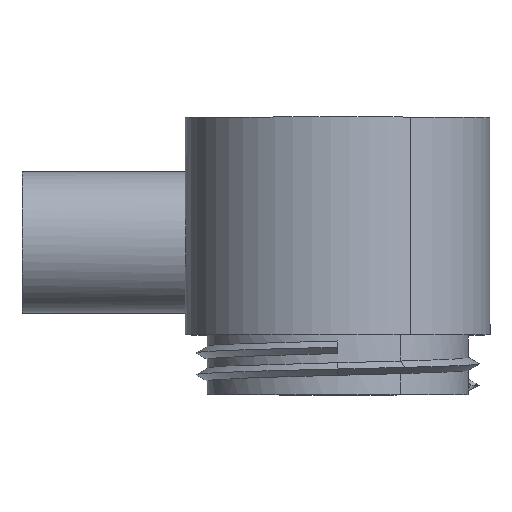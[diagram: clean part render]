
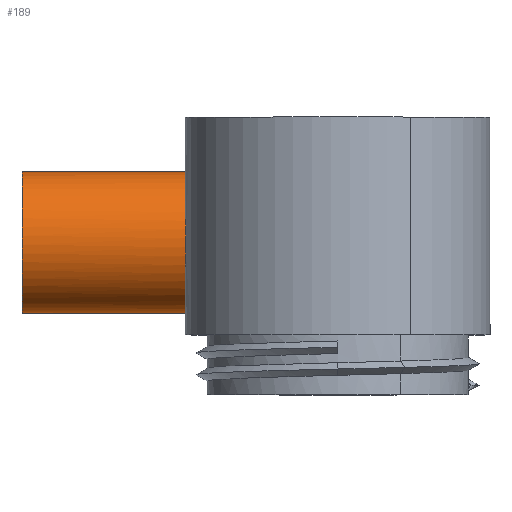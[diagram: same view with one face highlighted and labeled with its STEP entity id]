
A CAD part, top view. The second image highlights one B-rep face of the part: STEP entity #189.
In plain terms, the highlighted cylindrical face has radius 6.5 mm (diameter 13 mm), a partial arc.
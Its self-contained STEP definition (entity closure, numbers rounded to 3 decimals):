
#95=CYLINDRICAL_SURFACE('',#1176,6.5);
#121=FACE_OUTER_BOUND('',#287,.T.);
#189=ADVANCED_FACE('',(#121),#95,.T.);
#287=EDGE_LOOP('',(#370,#371,#372,#373));
#370=ORIENTED_EDGE('',*,*,#828,.T.);
#371=ORIENTED_EDGE('',*,*,#824,.T.);
#372=ORIENTED_EDGE('',*,*,#829,.T.);
#373=ORIENTED_EDGE('',*,*,#830,.F.);
#716=VERTEX_POINT('',#1304);
#717=VERTEX_POINT('',#1305);
#720=VERTEX_POINT('',#1379);
#721=VERTEX_POINT('',#1384);
#824=EDGE_CURVE('',#716,#717,#999,.T.);
#828=EDGE_CURVE('',#720,#716,#1003,.T.);
#829=EDGE_CURVE('',#717,#721,#1004,.T.);
#830=EDGE_CURVE('',#720,#721,#1005,.T.);
#999=B_SPLINE_CURVE_WITH_KNOTS('',3,(#1286,#1287,#1288,#1289,#1290,#1291,
#1292,#1293,#1294,#1295,#1296,#1297,#1298,#1299,#1300,#1301,#1302,#1303),
 .UNSPECIFIED.,.F.,.F.,(4,2,2,2,2,2,2,2,4),(0.,0.125,0.25,0.375,0.5,0.625,
0.75,0.875,1.),.UNSPECIFIED.);
#1003=B_SPLINE_CURVE_WITH_KNOTS('',3,(#1375,#1376,#1377,#1378),
 .UNSPECIFIED.,.F.,.F.,(4,4),(0.,1.),.UNSPECIFIED.);
#1004=B_SPLINE_CURVE_WITH_KNOTS('',3,(#1380,#1381,#1382,#1383),
 .UNSPECIFIED.,.F.,.F.,(4,4),(0.,1.),.UNSPECIFIED.);
#1005=B_SPLINE_CURVE_WITH_KNOTS('',3,(#1385,#1386,#1387,#1388,#1389,#1390,
#1391,#1392,#1393,#1394,#1395,#1396,#1397,#1398,#1399,#1400,#1401,#1402,
#1403,#1404,#1405,#1406,#1407,#1408,#1409,#1410,#1411,#1412),
 .UNSPECIFIED.,.F.,.F.,(4,2,2,2,2,2,2,2,2,2,2,2,2,4),(0.,0.063,0.125,0.188,
0.25,0.375,0.5,0.563,0.625,0.688,0.75,0.875,0.938,1.),.UNSPECIFIED.);
#1176=AXIS2_PLACEMENT_3D('',#1413,#1215,#1216);
#1215=DIRECTION('',(1.,0.,0.));
#1216=DIRECTION('',(0.,1.,0.));
#1286=CARTESIAN_POINT('',(-29.,20.5,-5.5));
#1287=CARTESIAN_POINT('',(-29.,20.5,-4.649));
#1288=CARTESIAN_POINT('',(-29.,20.331,-3.799));
#1289=CARTESIAN_POINT('',(-29.,19.68,-2.226));
#1290=CARTESIAN_POINT('',(-29.,19.198,-1.505));
#1291=CARTESIAN_POINT('',(-29.,17.995,-0.302));
#1292=CARTESIAN_POINT('',(-29.,17.274,0.18));
#1293=CARTESIAN_POINT('',(-29.,15.701,0.831));
#1294=CARTESIAN_POINT('',(-29.,14.851,1.));
#1295=CARTESIAN_POINT('',(-29.,13.149,1.));
#1296=CARTESIAN_POINT('',(-29.,12.299,0.831));
#1297=CARTESIAN_POINT('',(-29.,10.726,0.18));
#1298=CARTESIAN_POINT('',(-29.,10.005,-0.302));
#1299=CARTESIAN_POINT('',(-29.,8.802,-1.505));
#1300=CARTESIAN_POINT('',(-29.,8.32,-2.226));
#1301=CARTESIAN_POINT('',(-29.,7.669,-3.799));
#1302=CARTESIAN_POINT('',(-29.,7.5,-4.649));
#1303=CARTESIAN_POINT('',(-29.,7.5,-5.5));
#1304=CARTESIAN_POINT('',(-29.,20.5,-5.5));
#1305=CARTESIAN_POINT('',(-29.,7.5,-5.5));
#1375=CARTESIAN_POINT('',(-12.874,20.5,-5.5));
#1376=CARTESIAN_POINT('',(-18.25,20.5,-5.5));
#1377=CARTESIAN_POINT('',(-23.625,20.5,-5.5));
#1378=CARTESIAN_POINT('',(-29.,20.5,-5.5));
#1379=CARTESIAN_POINT('',(-12.874,20.5,-5.5));
#1380=CARTESIAN_POINT('',(-29.,7.5,-5.5));
#1381=CARTESIAN_POINT('',(-23.625,7.5,-5.5));
#1382=CARTESIAN_POINT('',(-18.25,7.5,-5.5));
#1383=CARTESIAN_POINT('',(-12.874,7.5,-5.5));
#1384=CARTESIAN_POINT('',(-12.874,7.5,-5.5));
#1385=CARTESIAN_POINT('',(-12.874,20.5,-5.5));
#1386=CARTESIAN_POINT('',(-13.047,20.5,-5.096));
#1387=CARTESIAN_POINT('',(-13.2,20.462,-4.685));
#1388=CARTESIAN_POINT('',(-13.463,20.305,-3.864));
#1389=CARTESIAN_POINT('',(-13.574,20.184,-3.453));
#1390=CARTESIAN_POINT('',(-13.75,19.864,-2.664));
#1391=CARTESIAN_POINT('',(-13.817,19.665,-2.284));
#1392=CARTESIAN_POINT('',(-13.917,19.192,-1.566));
#1393=CARTESIAN_POINT('',(-13.949,18.918,-1.229));
#1394=CARTESIAN_POINT('',(-14.01,18.009,-0.311));
#1395=CARTESIAN_POINT('',(-14.003,17.276,0.179));
#1396=CARTESIAN_POINT('',(-13.979,15.697,0.832));
#1397=CARTESIAN_POINT('',(-13.964,14.848,1.002));
#1398=CARTESIAN_POINT('',(-13.964,13.557,0.999));
#1399=CARTESIAN_POINT('',(-13.968,13.125,0.955));
#1400=CARTESIAN_POINT('',(-13.978,12.285,0.784));
#1401=CARTESIAN_POINT('',(-13.986,11.875,0.658));
#1402=CARTESIAN_POINT('',(-13.997,11.086,0.326));
#1403=CARTESIAN_POINT('',(-14.002,10.708,0.121));
#1404=CARTESIAN_POINT('',(-13.997,9.996,-0.362));
#1405=CARTESIAN_POINT('',(-13.989,9.662,-0.64));
#1406=CARTESIAN_POINT('',(-13.926,8.758,-1.562));
#1407=CARTESIAN_POINT('',(-13.834,8.281,-2.297));
#1408=CARTESIAN_POINT('',(-13.568,7.809,-3.476));
#1409=CARTESIAN_POINT('',(-13.458,7.691,-3.882));
#1410=CARTESIAN_POINT('',(-13.196,7.537,-4.695));
#1411=CARTESIAN_POINT('',(-13.045,7.5,-5.101));
#1412=CARTESIAN_POINT('',(-12.874,7.5,-5.5));
#1413=CARTESIAN_POINT('',(-6.316,14.,-5.5));
